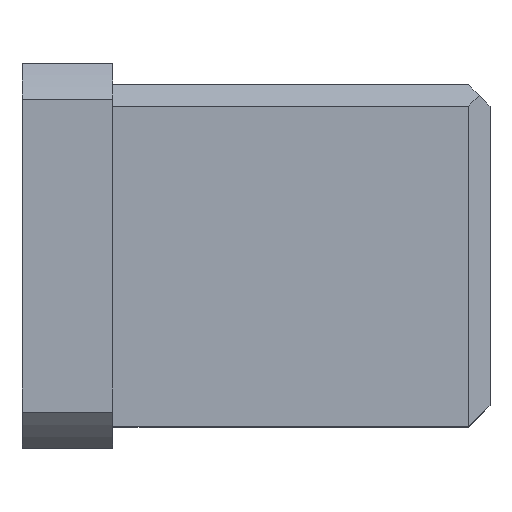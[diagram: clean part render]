
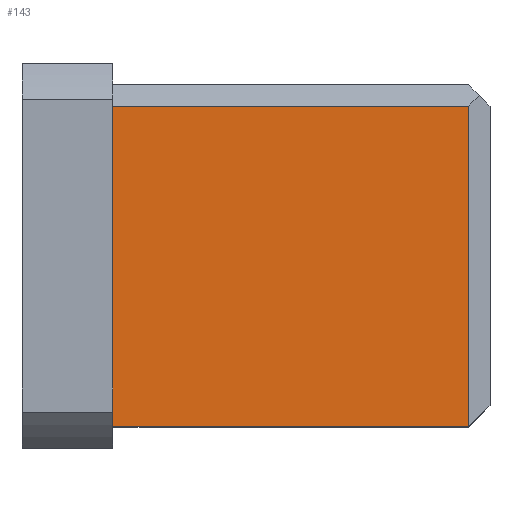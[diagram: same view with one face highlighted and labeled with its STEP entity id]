
A CAD part, top view. The second image highlights one B-rep face of the part: STEP entity #143.
In plain terms, the highlighted planar face has unit normal (0, 0, 1).
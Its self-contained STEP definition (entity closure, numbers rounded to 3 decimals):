
#143 = ADVANCED_FACE ( 'NONE', ( #5230 ), #6317, .T. ) ;
#673 = EDGE_CURVE ( 'NONE', #2903, #2907, #4433, .T. ) ;
#676 = EDGE_CURVE ( 'NONE', #2917, #2903, #4444, .T. ) ;
#678 = EDGE_CURVE ( 'NONE', #2907, #2920, #4436, .T. ) ;
#682 = EDGE_CURVE ( 'NONE', #2920, #2917, #4451, .T. ) ;
#875 = EDGE_LOOP ( 'NONE', ( #1950, #1949, #1948, #1947 ) ) ;
#1947 = ORIENTED_EDGE ( 'NONE', *, *, #673, .T. ) ;
#1948 = ORIENTED_EDGE ( 'NONE', *, *, #676, .T. ) ;
#1949 = ORIENTED_EDGE ( 'NONE', *, *, #682, .T. ) ;
#1950 = ORIENTED_EDGE ( 'NONE', *, *, #678, .T. ) ;
#2903 = VERTEX_POINT ( 'NONE', #7721 ) ;
#2907 = VERTEX_POINT ( 'NONE', #7725 ) ;
#2917 = VERTEX_POINT ( 'NONE', #7735 ) ;
#2920 = VERTEX_POINT ( 'NONE', #7738 ) ;
#3015 = CARTESIAN_POINT ( 'NONE',  ( -8.3, 0., 80. ) ) ;
#3077 = DIRECTION ( 'NONE',  ( 1., 0., 0. ) ) ;
#3078 = DIRECTION ( 'NONE',  ( 0., 0., 1. ) ) ;
#3501 = AXIS2_PLACEMENT_3D ( 'NONE', #3015, #3078, #3077 ) ;
#4433 = LINE ( 'NONE', #6104, #4438 ) ;
#4436 = LINE ( 'NONE', #6097, #4457 ) ;
#4438 = VECTOR ( 'NONE', #6106, 1000. ) ;
#4444 = LINE ( 'NONE', #6110, #4450 ) ;
#4450 = VECTOR ( 'NONE', #6111, 1000. ) ;
#4451 = LINE ( 'NONE', #6105, #4472 ) ;
#4457 = VECTOR ( 'NONE', #6115, 1000. ) ;
#4472 = VECTOR ( 'NONE', #6123, 1000. ) ;
#5230 = FACE_OUTER_BOUND ( 'NONE', #875, .T. ) ;
#6097 = CARTESIAN_POINT ( 'NONE',  ( -8.3, 0., 80. ) ) ;
#6104 = CARTESIAN_POINT ( 'NONE',  ( -8.3, 75., 80. ) ) ;
#6105 = CARTESIAN_POINT ( 'NONE',  ( 0., 0., 80. ) ) ;
#6106 = DIRECTION ( 'NONE',  ( -1., 0., 0. ) ) ;
#6110 = CARTESIAN_POINT ( 'NONE',  ( 75., 0., 80. ) ) ;
#6111 = DIRECTION ( 'NONE',  ( 0., 1., 0. ) ) ;
#6115 = DIRECTION ( 'NONE',  ( 0., -1., 0. ) ) ;
#6123 = DIRECTION ( 'NONE',  ( 1., 0., 0. ) ) ;
#6317 = PLANE ( 'NONE',  #3501 ) ;
#7721 = CARTESIAN_POINT ( 'NONE',  ( 75., 75., 80. ) ) ;
#7725 = CARTESIAN_POINT ( 'NONE',  ( -8.3, 75., 80. ) ) ;
#7735 = CARTESIAN_POINT ( 'NONE',  ( 75., 0., 80. ) ) ;
#7738 = CARTESIAN_POINT ( 'NONE',  ( -8.3, 0., 80. ) ) ;
